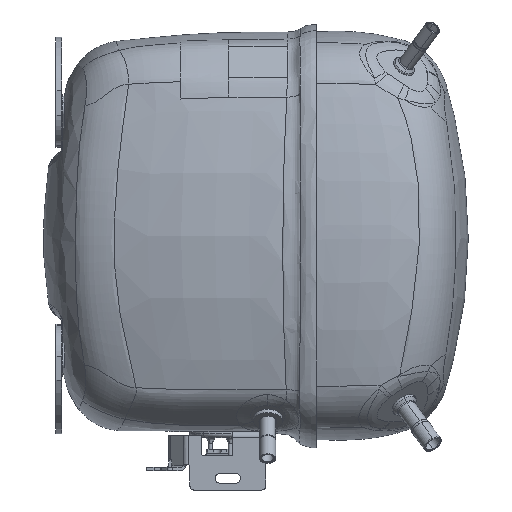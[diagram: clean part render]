
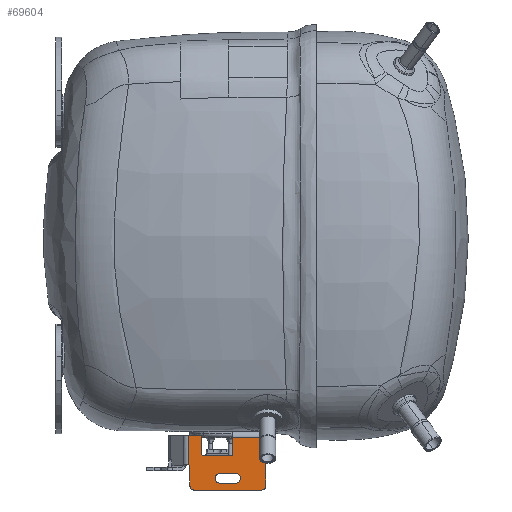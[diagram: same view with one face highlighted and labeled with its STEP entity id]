
A CAD part, left-side view. The second image highlights one B-rep face of the part: STEP entity #69604.
In plain terms, the highlighted planar face has unit normal (-1, 0, 0).
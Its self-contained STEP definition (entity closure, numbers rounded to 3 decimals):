
#66701=DIRECTION('',(0.,0.,1.));
#66702=VECTOR('',#66701,35.);
#66703=CARTESIAN_POINT('',(-26.6,0.,-37.));
#66704=LINE('',#66703,#66702);
#66841=CARTESIAN_POINT('',(-26.6,6.,-15.5));
#66842=DIRECTION('',(-1.,0.,0.));
#66843=DIRECTION('',(0.,-1.,0.));
#66844=AXIS2_PLACEMENT_3D('',#66841,#66842,#66843);
#66846=DIRECTION('',(0.,0.,-1.));
#66847=VECTOR('',#66846,8.);
#66848=CARTESIAN_POINT('',(-26.6,8.5,-15.5));
#66849=LINE('',#66848,#66847);
#66850=CARTESIAN_POINT('',(-26.6,6.,-23.5));
#66851=DIRECTION('',(-1.,0.,0.));
#66852=DIRECTION('',(0.,1.,0.));
#66853=AXIS2_PLACEMENT_3D('',#66850,#66851,#66852);
#66855=DIRECTION('',(0.,0.,1.));
#66856=VECTOR('',#66855,8.);
#66857=CARTESIAN_POINT('',(-26.6,3.5,-23.5));
#66858=LINE('',#66857,#66856);
#66859=DIRECTION('',(0.,-1.,0.));
#66860=VECTOR('',#66859,15.);
#66861=CARTESIAN_POINT('',(-26.6,28.,-39.986));
#66862=LINE('',#66861,#66860);
#66863=DIRECTION('',(0.,-1.,0.));
#66864=VECTOR('',#66863,9.375);
#66865=CARTESIAN_POINT('',(-26.6,28.,-33.));
#66866=LINE('',#66865,#66864);
#66867=CARTESIAN_POINT('',(-26.6,18.625,-31.875));
#66868=DIRECTION('',(-1.,0.,0.));
#66869=DIRECTION('',(0.,0.,-1.));
#66870=AXIS2_PLACEMENT_3D('',#66867,#66868,#66869);
#66872=DIRECTION('',(0.,0.,1.));
#66873=VECTOR('',#66872,11.879);
#66874=CARTESIAN_POINT('',(-26.6,18.,-30.94));
#66875=LINE('',#66874,#66873);
#66876=CARTESIAN_POINT('',(-26.6,18.625,-18.125));
#66877=DIRECTION('',(-1.,0.,0.));
#66878=DIRECTION('',(0.,-0.556,-0.831));
#66879=AXIS2_PLACEMENT_3D('',#66876,#66877,#66878);
#66881=DIRECTION('',(0.,1.,0.));
#66882=VECTOR('',#66881,8.479);
#66883=CARTESIAN_POINT('',(-26.6,18.625,-17.));
#66884=LINE('',#66883,#66882);
#66885=DIRECTION('',(0.,0.,-1.));
#66886=VECTOR('',#66885,17.);
#66887=CARTESIAN_POINT('',(-26.6,27.104,0.));
#66888=LINE('',#66887,#66886);
#66889=DIRECTION('',(0.,-1.,0.));
#66890=VECTOR('',#66889,25.104);
#66891=CARTESIAN_POINT('',(-26.6,27.104,0.));
#66892=LINE('',#66891,#66890);
#66893=CARTESIAN_POINT('',(-26.6,2.,-2.));
#66894=DIRECTION('',(-1.,0.,0.));
#66895=DIRECTION('',(0.,-1.,0.));
#66896=AXIS2_PLACEMENT_3D('',#66893,#66894,#66895);
#66898=CARTESIAN_POINT('',(-26.6,2.,-37.));
#66899=DIRECTION('',(-1.,0.,0.));
#66900=DIRECTION('',(0.,0.,-1.));
#66901=AXIS2_PLACEMENT_3D('',#66898,#66899,#66900);
#67141=DIRECTION('',(0.,0.,1.));
#67142=VECTOR('',#67141,6.986);
#67143=CARTESIAN_POINT('',(-26.6,28.,-39.986));
#67144=LINE('',#67143,#67142);
#67902=DIRECTION('',(0.,-1.,0.));
#67903=VECTOR('',#67902,10.);
#67904=CARTESIAN_POINT('',(-26.6,12.,-39.));
#67905=LINE('',#67904,#67903);
#67926=CARTESIAN_POINT('',(-26.6,12.,-40.));
#67927=DIRECTION('',(1.,0.,0.));
#67928=DIRECTION('',(0.,1.,0.014));
#67929=AXIS2_PLACEMENT_3D('',#67926,#67927,#67928);
#68899=CARTESIAN_POINT('',(-26.6,3.5,-15.5));
#68900=CARTESIAN_POINT('',(-26.6,8.5,-15.5));
#68901=VERTEX_POINT('',#68899);
#68902=VERTEX_POINT('',#68900);
#68903=CARTESIAN_POINT('',(-26.6,8.5,-23.5));
#68904=VERTEX_POINT('',#68903);
#68905=CARTESIAN_POINT('',(-26.6,3.5,-23.5));
#68906=VERTEX_POINT('',#68905);
#68907=CARTESIAN_POINT('',(-26.6,28.,-33.));
#68909=VERTEX_POINT('',#68907);
#68921=CARTESIAN_POINT('',(-26.6,18.625,-33.));
#68922=VERTEX_POINT('',#68921);
#68923=CARTESIAN_POINT('',(-26.6,18.625,-17.));
#68925=VERTEX_POINT('',#68923);
#69095=CARTESIAN_POINT('',(-26.6,18.,-30.94));
#69096=CARTESIAN_POINT('',(-26.6,18.,-19.06));
#69097=VERTEX_POINT('',#69095);
#69098=VERTEX_POINT('',#69096);
#69207=CARTESIAN_POINT('',(-26.6,27.104,-17.));
#69209=VERTEX_POINT('',#69207);
#69213=CARTESIAN_POINT('',(-26.6,27.104,0.));
#69214=VERTEX_POINT('',#69213);
#69223=CARTESIAN_POINT('',(-26.6,0.,-2.));
#69224=CARTESIAN_POINT('',(-26.6,2.,0.));
#69225=VERTEX_POINT('',#69223);
#69226=VERTEX_POINT('',#69224);
#69235=CARTESIAN_POINT('',(-26.6,2.,-39.));
#69236=VERTEX_POINT('',#69235);
#69237=CARTESIAN_POINT('',(-26.6,0.,-37.));
#69238=VERTEX_POINT('',#69237);
#69296=CARTESIAN_POINT('',(-26.6,28.,-39.986));
#69298=VERTEX_POINT('',#69296);
#69333=CARTESIAN_POINT('',(-26.6,12.,-39.));
#69334=VERTEX_POINT('',#69333);
#69345=CARTESIAN_POINT('',(-26.6,13.,-39.986));
#69346=VERTEX_POINT('',#69345);
#69562=CARTESIAN_POINT('',(-26.6,0.,-41.228));
#69563=DIRECTION('',(-1.,0.,0.));
#69564=DIRECTION('',(0.,0.,1.));
#69565=AXIS2_PLACEMENT_3D('',#69562,#69563,#69564);
#69566=PLANE('',#69565);
#69568=ORIENTED_EDGE('',*,*,#69567,.F.);
#69570=ORIENTED_EDGE('',*,*,#69569,.F.);
#69572=ORIENTED_EDGE('',*,*,#69571,.F.);
#69574=ORIENTED_EDGE('',*,*,#69573,.T.);
#69576=ORIENTED_EDGE('',*,*,#69575,.T.);
#69578=ORIENTED_EDGE('',*,*,#69577,.T.);
#69580=ORIENTED_EDGE('',*,*,#69579,.T.);
#69582=ORIENTED_EDGE('',*,*,#69581,.T.);
#69584=ORIENTED_EDGE('',*,*,#69583,.T.);
#69586=ORIENTED_EDGE('',*,*,#69585,.F.);
#69588=ORIENTED_EDGE('',*,*,#69587,.T.);
#69590=ORIENTED_EDGE('',*,*,#69589,.F.);
#69591=ORIENTED_EDGE('',*,*,#69395,.F.);
#69593=ORIENTED_EDGE('',*,*,#69592,.F.);
#69594=EDGE_LOOP('',(#69568,#69570,#69572,#69574,#69576,#69578,#69580,#69582,
#69584,#69586,#69588,#69590,#69591,#69593));
#69595=FACE_OUTER_BOUND('',#69594,.F.);
#69596=ORIENTED_EDGE('',*,*,#69468,.T.);
#69598=ORIENTED_EDGE('',*,*,#69597,.T.);
#69600=ORIENTED_EDGE('',*,*,#69599,.T.);
#69601=ORIENTED_EDGE('',*,*,#69541,.T.);
#69602=EDGE_LOOP('',(#69596,#69598,#69600,#69601));
#69603=FACE_BOUND('',#69602,.F.);
#69604=ADVANCED_FACE('',(#69595,#69603),#69566,.T.);
#66845=CIRCLE('',#66844,2.5);
#66854=CIRCLE('',#66853,2.5);
#66871=CIRCLE('',#66870,1.125);
#66880=CIRCLE('',#66879,1.125);
#66897=CIRCLE('',#66896,2.);
#66902=CIRCLE('',#66901,2.);
#67930=CIRCLE('',#67929,1.);
#69395=EDGE_CURVE('',#69238,#69225,#66704,.T.);
#69468=EDGE_CURVE('',#68901,#68902,#66845,.T.);
#69541=EDGE_CURVE('',#68906,#68901,#66858,.T.);
#69567=EDGE_CURVE('',#69334,#69236,#67905,.T.);
#69569=EDGE_CURVE('',#69346,#69334,#67930,.T.);
#69571=EDGE_CURVE('',#69298,#69346,#66862,.T.);
#69573=EDGE_CURVE('',#69298,#68909,#67144,.T.);
#69575=EDGE_CURVE('',#68909,#68922,#66866,.T.);
#69577=EDGE_CURVE('',#68922,#69097,#66871,.T.);
#69579=EDGE_CURVE('',#69097,#69098,#66875,.T.);
#69581=EDGE_CURVE('',#69098,#68925,#66880,.T.);
#69583=EDGE_CURVE('',#68925,#69209,#66884,.T.);
#69585=EDGE_CURVE('',#69214,#69209,#66888,.T.);
#69587=EDGE_CURVE('',#69214,#69226,#66892,.T.);
#69589=EDGE_CURVE('',#69225,#69226,#66897,.T.);
#69592=EDGE_CURVE('',#69236,#69238,#66902,.T.);
#69597=EDGE_CURVE('',#68902,#68904,#66849,.T.);
#69599=EDGE_CURVE('',#68904,#68906,#66854,.T.);
